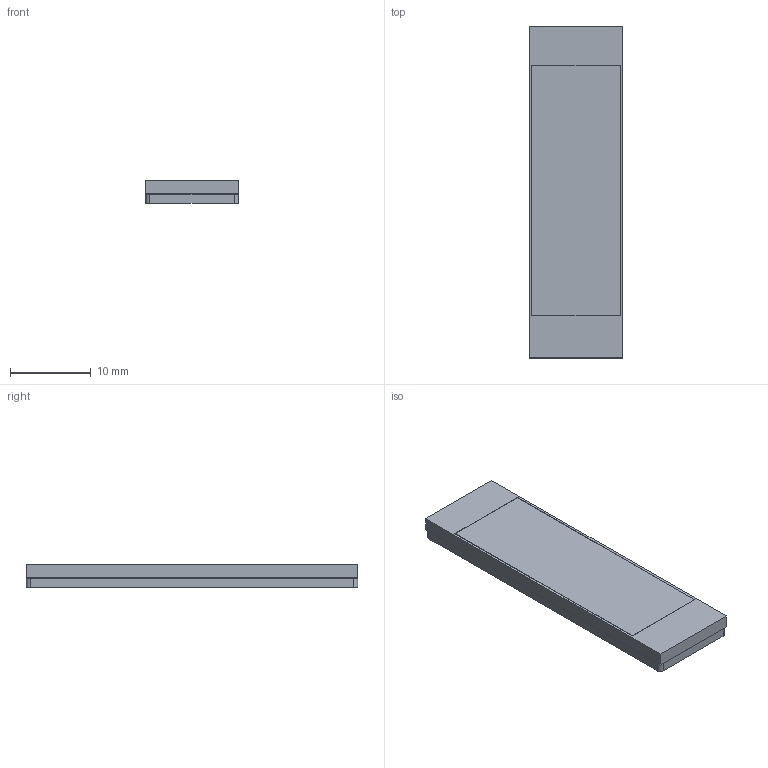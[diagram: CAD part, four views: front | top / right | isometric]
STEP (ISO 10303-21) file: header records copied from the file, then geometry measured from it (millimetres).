
FILE_DESCRIPTION(('Open CASCADE Model'),'2;1');
FILE_NAME('Open CASCADE Shape Model','2026-05-31T19:43:34',('Author'),( 'Open CASCADE'),'Open CASCADE STEP processor 7.6','Open CASCADE 7.6' ,'Unknown');
FILE_SCHEMA(('AP242_MANAGED_MODEL_BASED_3D_ENGINEERING_MIM_LF. {1 0 10303 442 1 1 4 }'));
Length unit declared in the file: millimetre
Products named in the file (2): Socket; Part
Bounding box: 11.6 x 41.18 x 2.84 mm (x, y, z)
Volume: 1336.5 mm3; surface area: 1790.6 mm2
Topology: 2 solids, 2 shells, 25 faces, 60 edges, 40 vertices
Faces by surface type: plane 21, cylinder 4
Entity records: 1516 total; most frequent: CARTESIAN_POINT 254, DIRECTION 232, LINE 156, VECTOR 156, ORIENTED_EDGE 120, PCURVE 120, DEFINITIONAL_REPRESENTATION 120, EDGE_CURVE 60
